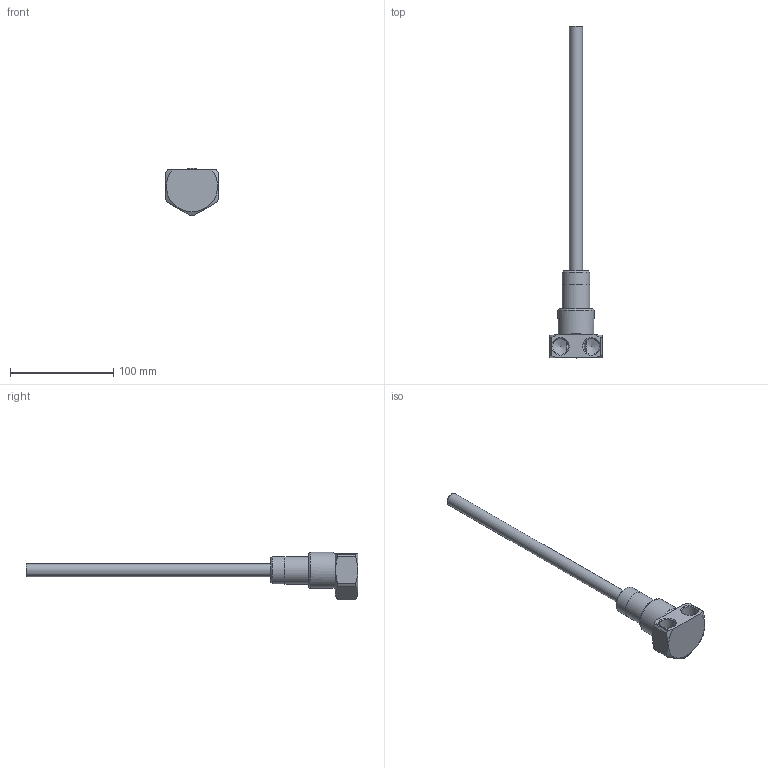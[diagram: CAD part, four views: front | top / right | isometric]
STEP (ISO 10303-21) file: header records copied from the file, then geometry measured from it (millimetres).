
FILE_DESCRIPTION(/* description */ (''),/* implementation_level */ '2;1');
FILE_NAME(/* name */ 'C:/Users/drich/Desktop/ET3438 v1.step',/* time_stamp */ '2020-01-15T19:50:29-06:00',/* author */ (''),/* organization */ (''),/* preprocessor_version */ 'ST-DEVELOPER v18',/* originating_system */ 'Autodesk Translation Framework v8.12.0.6',/* authorisation */ '');
FILE_SCHEMA (('AUTOMOTIVE_DESIGN { 1 0 10303 214 3 1 1 }'));
Length unit declared in the file: inch
Products named in the file (4): ET3438; ET3438H; SSPN34-2; HF500T-12
Assembly tree (3 placements, depth 2):
  ET3438
    ET3438H
    SSPN34-2
    HF500T-12
Bounding box: 50.8 x 321.69 x 46.02 mm (x, y, z)
Volume: 62543.2 mm3; surface area: 46092.4 mm2
Topology: 3 solids, 3 shells, 59 faces, 166 edges, 114 vertices
Faces by surface type: plane 23, cylinder 22, cone 10, torus 4
Full cylindrical faces by diameter (mm): 11.278 x1, 12.7 x1, 12.86 x1, 14.143 x1, 14.326 x1, 15.173 x2, 20.93 x1, 24.387 x1, 26.619 x2, 26.67 x1, 34.9 x1
Entity records: 2151 total; most frequent: CARTESIAN_POINT 457, DIRECTION 364, ORIENTED_EDGE 328, EDGE_CURVE 164, AXIS2_PLACEMENT_3D 158, VERTEX_POINT 114, CIRCLE 87, EDGE_LOOP 70
